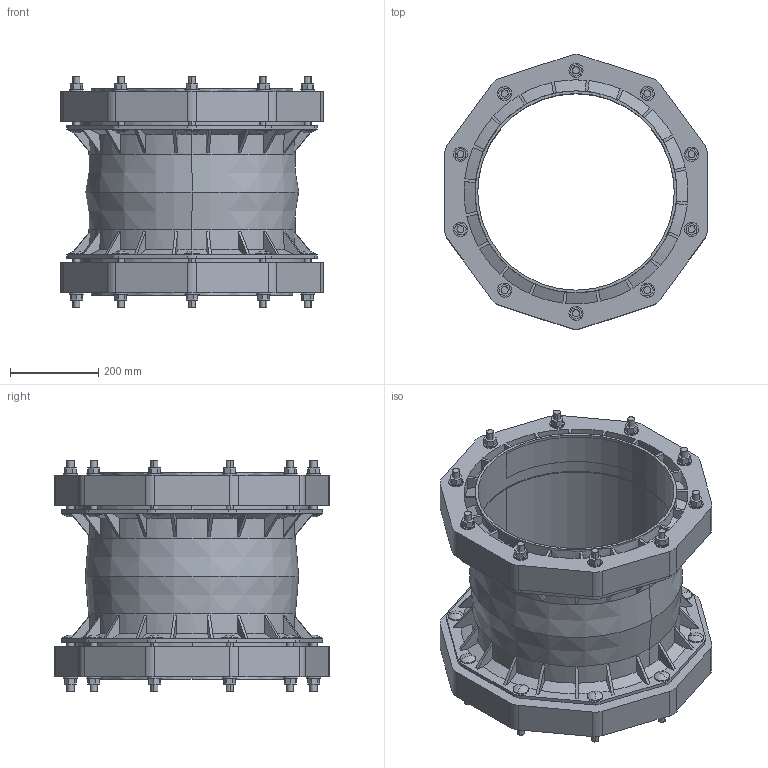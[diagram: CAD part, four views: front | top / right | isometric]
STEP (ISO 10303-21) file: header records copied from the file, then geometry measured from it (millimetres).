
FILE_DESCRIPTION((''),'2;1');
FILE_NAME('BIM_13198_13_ASM','2019-04-09T',('MReader'),(''),'CREO PARAMETRIC BY PTC INC, 2016130','CREO PARAMETRIC BY PTC INC, 2016130','');
FILE_SCHEMA(('CONFIG_CONTROL_DESIGN'));
Length unit declared in the file: millimetre
Products named in the file (3): BIM_13077; BIM_13075; BIM_13198_13_ASM
Assembly tree (3 placements, depth 2):
  BIM_13198_13_ASM
    BIM_13077
    BIM_13075  x2
Bounding box: 595.27 x 622.19 x 525 mm (x, y, z)
Volume: 26638754.6 mm3; surface area: 2755395.9 mm2
Topology: 3 solids, 3 shells, 780 faces, 2148 edges, 1398 vertices
Faces by surface type: plane 430, cylinder 214, cone 96, sphere 40
Entity records: 18517 total; most frequent: CARTESIAN_POINT 3886, ORIENTED_EDGE 3080, DIRECTION 3044, EDGE_CURVE 1540, AXIS2_PLACEMENT_3D 1089, VERTEX_POINT 1018, VECTOR 866, LINE 866
